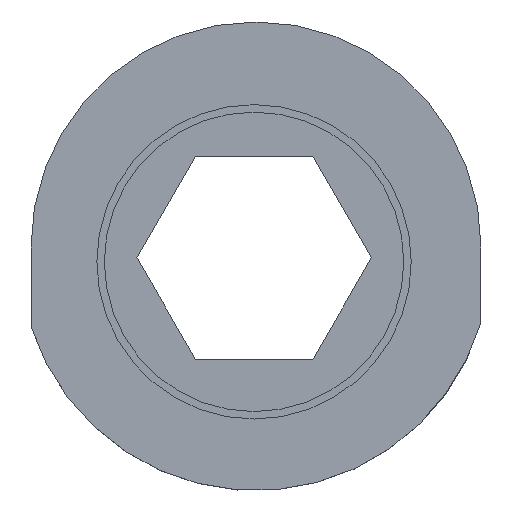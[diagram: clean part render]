
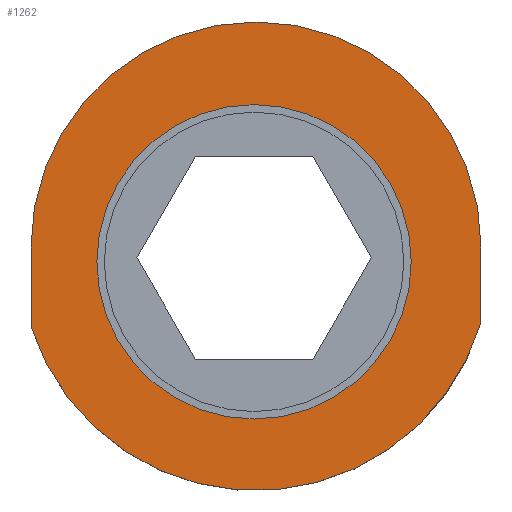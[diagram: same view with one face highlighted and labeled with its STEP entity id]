
A CAD part, top view. The second image highlights one B-rep face of the part: STEP entity #1262.
In plain terms, the highlighted planar face has unit normal (0, 0, 1).
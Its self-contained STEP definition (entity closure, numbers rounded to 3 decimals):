
#392 = VERTEX_POINT('',#393);
#393 = CARTESIAN_POINT('',(14.875,-2.749,1.5));
#400 = CYLINDRICAL_SURFACE('',#401,15.75);
#401 = AXIS2_PLACEMENT_3D('',#402,#403,#404);
#402 = CARTESIAN_POINT('',(-0.875,-2.749,1.));
#403 = DIRECTION('',(-0.,-0.,1.));
#404 = DIRECTION('',(1.,0.,0.));
#412 = CYLINDRICAL_SURFACE('',#413,15.75);
#413 = AXIS2_PLACEMENT_3D('',#414,#415,#416);
#414 = CARTESIAN_POINT('',(-0.875,-2.749,1.));
#415 = DIRECTION('',(-0.,-0.,1.));
#416 = DIRECTION('',(1.,0.,0.));
#424 = EDGE_CURVE('',#425,#392,#427,.T.);
#425 = VERTEX_POINT('',#426);
#426 = CARTESIAN_POINT('',(-16.625,-2.749,1.5));
#427 = SURFACE_CURVE('',#428,(#433,#440),.PCURVE_S1.);
#428 = CIRCLE('',#429,15.75);
#429 = AXIS2_PLACEMENT_3D('',#430,#431,#432);
#430 = CARTESIAN_POINT('',(-0.875,-2.749,1.5));
#431 = DIRECTION('',(0.,0.,1.));
#432 = DIRECTION('',(1.,0.,-0.));
#433 = PCURVE('',#400,#434);
#434 = DEFINITIONAL_REPRESENTATION('',(#435),#439);
#435 = LINE('',#436,#437);
#436 = CARTESIAN_POINT('',(0.,0.5));
#437 = VECTOR('',#438,1.);
#438 = DIRECTION('',(1.,0.));
#439 = ( GEOMETRIC_REPRESENTATION_CONTEXT(2) 
PARAMETRIC_REPRESENTATION_CONTEXT() REPRESENTATION_CONTEXT('2D SPACE',''
  ) );
#440 = PCURVE('',#441,#446);
#441 = PLANE('',#442);
#442 = AXIS2_PLACEMENT_3D('',#443,#444,#445);
#443 = CARTESIAN_POINT('',(-0.68,-1.263,1.5));
#444 = DIRECTION('',(-0.,0.,-1.));
#445 = DIRECTION('',(-1.,0.,0.));
#446 = DEFINITIONAL_REPRESENTATION('',(#447),#455);
#447 = ( BOUNDED_CURVE() B_SPLINE_CURVE(2,(#448,#449,#450,#451,#452,#453
,#454),.UNSPECIFIED.,.T.,.F.) B_SPLINE_CURVE_WITH_KNOTS((1,2,2,2,2,1),(
    -2.094,0.,2.094,4.189,6.283,
8.378),.UNSPECIFIED.) CURVE() GEOMETRIC_REPRESENTATION_ITEM() 
RATIONAL_B_SPLINE_CURVE((1.,0.5,1.,0.5,1.,0.5,1.)) REPRESENTATION_ITEM(
  '') );
#448 = CARTESIAN_POINT('',(-15.555,-1.487));
#449 = CARTESIAN_POINT('',(-15.555,25.793));
#450 = CARTESIAN_POINT('',(8.07,12.153));
#451 = CARTESIAN_POINT('',(31.695,-1.487));
#452 = CARTESIAN_POINT('',(8.07,-15.127));
#453 = CARTESIAN_POINT('',(-15.555,-28.767));
#454 = CARTESIAN_POINT('',(-15.555,-1.487));
#455 = ( GEOMETRIC_REPRESENTATION_CONTEXT(2) 
PARAMETRIC_REPRESENTATION_CONTEXT() REPRESENTATION_CONTEXT('2D SPACE',''
  ) );
#938 = VERTEX_POINT('',#939);
#939 = CARTESIAN_POINT('',(21.861,-1.263,1.5));
#948 = CYLINDRICAL_SURFACE('',#949,22.541);
#949 = AXIS2_PLACEMENT_3D('',#950,#951,#952);
#950 = CARTESIAN_POINT('',(-0.68,-1.263,1.5));
#951 = DIRECTION('',(-0.,-0.,-1.));
#952 = DIRECTION('',(-1.,0.,0.));
#960 = PLANE('',#961);
#961 = AXIS2_PLACEMENT_3D('',#962,#963,#964);
#962 = CARTESIAN_POINT('',(21.861,-1.263,1.5));
#963 = DIRECTION('',(-1.,0.,0.));
#964 = DIRECTION('',(0.,0.,1.));
#1006 = VERTEX_POINT('',#1007);
#1007 = CARTESIAN_POINT('',(-23.221,-1.263,1.5));
#1021 = PLANE('',#1022);
#1022 = AXIS2_PLACEMENT_3D('',#1023,#1024,#1025);
#1023 = CARTESIAN_POINT('',(-23.221,-1.263,1.5));
#1024 = DIRECTION('',(1.,0.,-0.));
#1025 = DIRECTION('',(-0.,0.,-1.));
#1033 = EDGE_CURVE('',#938,#1006,#1034,.T.);
#1034 = SURFACE_CURVE('',#1035,(#1040,#1047),.PCURVE_S1.);
#1035 = CIRCLE('',#1036,22.541);
#1036 = AXIS2_PLACEMENT_3D('',#1037,#1038,#1039);
#1037 = CARTESIAN_POINT('',(-0.68,-1.263,1.5));
#1038 = DIRECTION('',(0.,0.,1.));
#1039 = DIRECTION('',(-1.,0.,0.));
#1040 = PCURVE('',#948,#1041);
#1041 = DEFINITIONAL_REPRESENTATION('',(#1042),#1046);
#1042 = LINE('',#1043,#1044);
#1043 = CARTESIAN_POINT('',(6.283,0.));
#1044 = VECTOR('',#1045,1.);
#1045 = DIRECTION('',(-1.,0.));
#1046 = ( GEOMETRIC_REPRESENTATION_CONTEXT(2) 
PARAMETRIC_REPRESENTATION_CONTEXT() REPRESENTATION_CONTEXT('2D SPACE',''
  ) );
#1047 = PCURVE('',#441,#1048);
#1048 = DEFINITIONAL_REPRESENTATION('',(#1049),#1057);
#1049 = ( BOUNDED_CURVE() B_SPLINE_CURVE(2,(#1050,#1051,#1052,#1053,
#1054,#1055,#1056),.UNSPECIFIED.,.T.,.F.) B_SPLINE_CURVE_WITH_KNOTS((1,2
    ,2,2,2,1),(-2.094,0.,2.094,4.189,
6.283,8.378),.UNSPECIFIED.) CURVE() 
GEOMETRIC_REPRESENTATION_ITEM() RATIONAL_B_SPLINE_CURVE((1.,0.5,1.,0.5,
1.,0.5,1.)) REPRESENTATION_ITEM('') );
#1050 = CARTESIAN_POINT('',(22.541,0.));
#1051 = CARTESIAN_POINT('',(22.541,-39.042));
#1052 = CARTESIAN_POINT('',(-11.27,-19.521));
#1053 = CARTESIAN_POINT('',(-45.082,0.));
#1054 = CARTESIAN_POINT('',(-11.27,19.521));
#1055 = CARTESIAN_POINT('',(22.541,39.042));
#1056 = CARTESIAN_POINT('',(22.541,0.));
#1057 = ( GEOMETRIC_REPRESENTATION_CONTEXT(2) 
PARAMETRIC_REPRESENTATION_CONTEXT() REPRESENTATION_CONTEXT('2D SPACE',''
  ) );
#1087 = VERTEX_POINT('',#1088);
#1088 = CARTESIAN_POINT('',(-23.221,-9.246,1.5));
#1102 = CYLINDRICAL_SURFACE('',#1103,23.601);
#1103 = AXIS2_PLACEMENT_3D('',#1104,#1105,#1106);
#1104 = CARTESIAN_POINT('',(-0.739,-2.065,1.5));
#1105 = DIRECTION('',(-0.,-0.,-1.));
#1106 = DIRECTION('',(-1.,0.,0.));
#1114 = EDGE_CURVE('',#1006,#1087,#1115,.T.);
#1115 = SURFACE_CURVE('',#1116,(#1120,#1127),.PCURVE_S1.);
#1116 = LINE('',#1117,#1118);
#1117 = CARTESIAN_POINT('',(-23.221,-1.263,1.5));
#1118 = VECTOR('',#1119,1.);
#1119 = DIRECTION('',(0.,-1.,0.));
#1120 = PCURVE('',#1021,#1121);
#1121 = DEFINITIONAL_REPRESENTATION('',(#1122),#1126);
#1122 = LINE('',#1123,#1124);
#1123 = CARTESIAN_POINT('',(0.,0.));
#1124 = VECTOR('',#1125,1.);
#1125 = DIRECTION('',(-0.,-1.));
#1126 = ( GEOMETRIC_REPRESENTATION_CONTEXT(2) 
PARAMETRIC_REPRESENTATION_CONTEXT() REPRESENTATION_CONTEXT('2D SPACE',''
  ) );
#1127 = PCURVE('',#441,#1128);
#1128 = DEFINITIONAL_REPRESENTATION('',(#1129),#1133);
#1129 = LINE('',#1130,#1131);
#1130 = CARTESIAN_POINT('',(22.541,0.));
#1131 = VECTOR('',#1132,1.);
#1132 = DIRECTION('',(0.,-1.));
#1133 = ( GEOMETRIC_REPRESENTATION_CONTEXT(2) 
PARAMETRIC_REPRESENTATION_CONTEXT() REPRESENTATION_CONTEXT('2D SPACE',''
  ) );
#1168 = VERTEX_POINT('',#1169);
#1169 = CARTESIAN_POINT('',(21.861,-8.862,1.5));
#1190 = EDGE_CURVE('',#1087,#1168,#1191,.T.);
#1191 = SURFACE_CURVE('',#1192,(#1197,#1204),.PCURVE_S1.);
#1192 = CIRCLE('',#1193,23.601);
#1193 = AXIS2_PLACEMENT_3D('',#1194,#1195,#1196);
#1194 = CARTESIAN_POINT('',(-0.739,-2.065,1.5));
#1195 = DIRECTION('',(0.,0.,1.));
#1196 = DIRECTION('',(1.,0.,-0.));
#1197 = PCURVE('',#1102,#1198);
#1198 = DEFINITIONAL_REPRESENTATION('',(#1199),#1203);
#1199 = LINE('',#1200,#1201);
#1200 = CARTESIAN_POINT('',(9.425,0.));
#1201 = VECTOR('',#1202,1.);
#1202 = DIRECTION('',(-1.,0.));
#1203 = ( GEOMETRIC_REPRESENTATION_CONTEXT(2) 
PARAMETRIC_REPRESENTATION_CONTEXT() REPRESENTATION_CONTEXT('2D SPACE',''
  ) );
#1204 = PCURVE('',#441,#1205);
#1205 = DEFINITIONAL_REPRESENTATION('',(#1206),#1214);
#1206 = ( BOUNDED_CURVE() B_SPLINE_CURVE(2,(#1207,#1208,#1209,#1210,
#1211,#1212,#1213),.UNSPECIFIED.,.T.,.F.) B_SPLINE_CURVE_WITH_KNOTS((1,2
    ,2,2,2,1),(-2.094,0.,2.094,4.189,
6.283,8.378),.UNSPECIFIED.) CURVE() 
GEOMETRIC_REPRESENTATION_ITEM() RATIONAL_B_SPLINE_CURVE((1.,0.5,1.,0.5,
1.,0.5,1.)) REPRESENTATION_ITEM('') );
#1207 = CARTESIAN_POINT('',(-23.541,-0.802));
#1208 = CARTESIAN_POINT('',(-23.541,40.075));
#1209 = CARTESIAN_POINT('',(11.86,19.636));
#1210 = CARTESIAN_POINT('',(47.261,-0.802));
#1211 = CARTESIAN_POINT('',(11.86,-21.241));
#1212 = CARTESIAN_POINT('',(-23.541,-41.68));
#1213 = CARTESIAN_POINT('',(-23.541,-0.802));
#1214 = ( GEOMETRIC_REPRESENTATION_CONTEXT(2) 
PARAMETRIC_REPRESENTATION_CONTEXT() REPRESENTATION_CONTEXT('2D SPACE',''
  ) );
#1242 = EDGE_CURVE('',#1168,#938,#1243,.T.);
#1243 = SURFACE_CURVE('',#1244,(#1248,#1255),.PCURVE_S1.);
#1244 = LINE('',#1245,#1246);
#1245 = CARTESIAN_POINT('',(21.861,-1.263,1.5));
#1246 = VECTOR('',#1247,1.);
#1247 = DIRECTION('',(-0.,1.,-0.));
#1248 = PCURVE('',#960,#1249);
#1249 = DEFINITIONAL_REPRESENTATION('',(#1250),#1254);
#1250 = LINE('',#1251,#1252);
#1251 = CARTESIAN_POINT('',(0.,0.));
#1252 = VECTOR('',#1253,1.);
#1253 = DIRECTION('',(0.,1.));
#1254 = ( GEOMETRIC_REPRESENTATION_CONTEXT(2) 
PARAMETRIC_REPRESENTATION_CONTEXT() REPRESENTATION_CONTEXT('2D SPACE',''
  ) );
#1255 = PCURVE('',#441,#1256);
#1256 = DEFINITIONAL_REPRESENTATION('',(#1257),#1261);
#1257 = LINE('',#1258,#1259);
#1258 = CARTESIAN_POINT('',(-22.541,0.));
#1259 = VECTOR('',#1260,1.);
#1260 = DIRECTION('',(0.,1.));
#1261 = ( GEOMETRIC_REPRESENTATION_CONTEXT(2) 
PARAMETRIC_REPRESENTATION_CONTEXT() REPRESENTATION_CONTEXT('2D SPACE',''
  ) );
#1262 = ADVANCED_FACE('',(#1263,#1292),#441,.F.);
#1263 = FACE_BOUND('',#1264,.T.);
#1264 = EDGE_LOOP('',(#1265,#1291));
#1265 = ORIENTED_EDGE('',*,*,#1266,.F.);
#1266 = EDGE_CURVE('',#392,#425,#1267,.T.);
#1267 = SURFACE_CURVE('',#1268,(#1273,#1284),.PCURVE_S1.);
#1268 = CIRCLE('',#1269,15.75);
#1269 = AXIS2_PLACEMENT_3D('',#1270,#1271,#1272);
#1270 = CARTESIAN_POINT('',(-0.875,-2.749,1.5));
#1271 = DIRECTION('',(0.,0.,1.));
#1272 = DIRECTION('',(1.,0.,-0.));
#1273 = PCURVE('',#441,#1274);
#1274 = DEFINITIONAL_REPRESENTATION('',(#1275),#1283);
#1275 = ( BOUNDED_CURVE() B_SPLINE_CURVE(2,(#1276,#1277,#1278,#1279,
#1280,#1281,#1282),.UNSPECIFIED.,.T.,.F.) B_SPLINE_CURVE_WITH_KNOTS((1,2
    ,2,2,2,1),(-2.094,0.,2.094,4.189,
6.283,8.378),.UNSPECIFIED.) CURVE() 
GEOMETRIC_REPRESENTATION_ITEM() RATIONAL_B_SPLINE_CURVE((1.,0.5,1.,0.5,
1.,0.5,1.)) REPRESENTATION_ITEM('') );
#1276 = CARTESIAN_POINT('',(-15.555,-1.487));
#1277 = CARTESIAN_POINT('',(-15.555,25.793));
#1278 = CARTESIAN_POINT('',(8.07,12.153));
#1279 = CARTESIAN_POINT('',(31.695,-1.487));
#1280 = CARTESIAN_POINT('',(8.07,-15.127));
#1281 = CARTESIAN_POINT('',(-15.555,-28.767));
#1282 = CARTESIAN_POINT('',(-15.555,-1.487));
#1283 = ( GEOMETRIC_REPRESENTATION_CONTEXT(2) 
PARAMETRIC_REPRESENTATION_CONTEXT() REPRESENTATION_CONTEXT('2D SPACE',''
  ) );
#1284 = PCURVE('',#412,#1285);
#1285 = DEFINITIONAL_REPRESENTATION('',(#1286),#1290);
#1286 = LINE('',#1287,#1288);
#1287 = CARTESIAN_POINT('',(0.,0.5));
#1288 = VECTOR('',#1289,1.);
#1289 = DIRECTION('',(1.,0.));
#1290 = ( GEOMETRIC_REPRESENTATION_CONTEXT(2) 
PARAMETRIC_REPRESENTATION_CONTEXT() REPRESENTATION_CONTEXT('2D SPACE',''
  ) );
#1291 = ORIENTED_EDGE('',*,*,#424,.F.);
#1292 = FACE_BOUND('',#1293,.T.);
#1293 = EDGE_LOOP('',(#1294,#1295,#1296,#1297));
#1294 = ORIENTED_EDGE('',*,*,#1033,.T.);
#1295 = ORIENTED_EDGE('',*,*,#1114,.T.);
#1296 = ORIENTED_EDGE('',*,*,#1190,.T.);
#1297 = ORIENTED_EDGE('',*,*,#1242,.T.);
